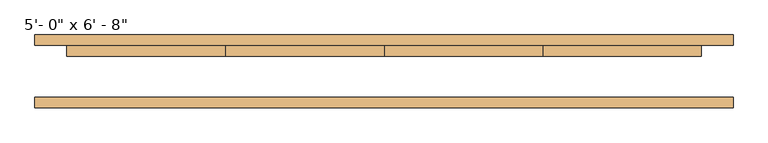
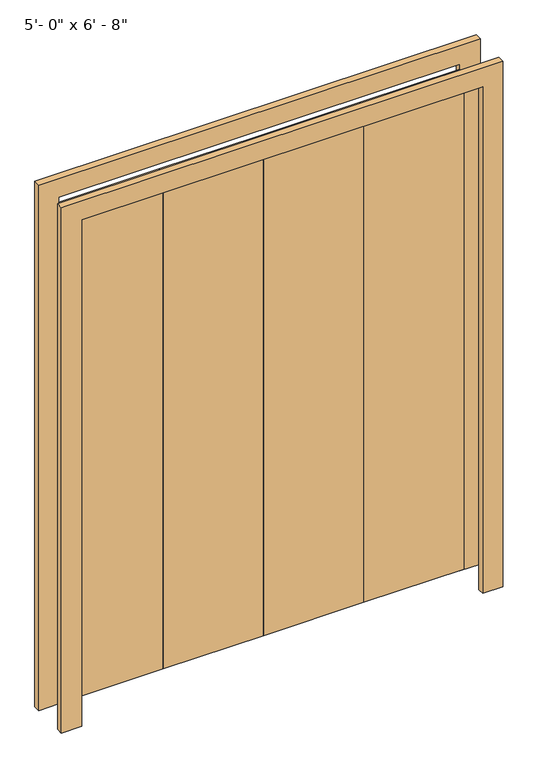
"""IFC4 building model written with IfcOpenShell, lengths in millimetres: door geometry."""

from ifc_helpers import new_model, si_unit, frame, origin, place, context, project, spatial, polyline, outline, extrude, source, transform, mapped, element, save


def door_d932cd56(model_context):
    return source(origin(), model_context, "Body", "SweptSolid", [
        extrude(outline(polyline([(2032.0, -762.0), (2032.0, 762.0), (0.0, 762.0), (0.0, 838.2), (2108.2, 838.2), (2108.2, -838.2), (0.0, -838.2), (0.0, -762.0), (2032.0, -762.0)])), frame((0.0, -103.2749703, 0.0), z_axis=(0.0, 1.0, 0.0), x_axis=(0.0, 0.0, 1.0)), (0.0, 0.0, 1.0), 25.4),
        extrude(outline(polyline([(2032.0, -762.0), (2032.0, 762.0), (0.0, 762.0), (0.0, 838.2), (2108.2, 838.2), (2108.2, -838.2), (0.0, -838.2), (0.0, -762.0), (2032.0, -762.0)])), frame((0.0, 45.9500297, 0.0), z_axis=(0.0, 1.0, 0.0), x_axis=(0.0, 0.0, 1.0)), (0.0, 0.0, 1.0), 25.4),
        extrude(outline(polyline([(-762.0, 45.9500297), (-381.0, 45.9500297), (-381.0, 20.5500297), (-762.0, 20.5500297), (-762.0, 45.9500297)])), frame((0.0, 0.0, 22.225), z_axis=(0.0, 0.0, 1.0), x_axis=(1.0, 0.0, 0.0)), (0.0, 0.0, 1.0), 1990.725),
        extrude(outline(polyline([(-381.0, 45.9500297), (0.0, 45.9500297), (0.0, 20.5500297), (-381.0, 20.5500297), (-381.0, 45.9500297)])), frame((0.0, 0.0, 22.225), z_axis=(0.0, 0.0, 1.0), x_axis=(1.0, 0.0, 0.0)), (0.0, 0.0, 1.0), 1990.725),
        extrude(outline(polyline([(0.0, 45.9500297), (381.0, 45.9500297), (381.0, 20.5500297), (0.0, 20.5500297), (0.0, 45.9500297)])), frame((0.0, 0.0, 22.225), z_axis=(0.0, 0.0, 1.0), x_axis=(1.0, 0.0, 0.0)), (0.0, 0.0, 1.0), 1990.725),
        extrude(outline(polyline([(381.0, 45.9500297), (762.0, 45.9500297), (762.0, 20.5500297), (381.0, 20.5500297), (381.0, 45.9500297)])), frame((0.0, 0.0, 22.225), z_axis=(0.0, 0.0, 1.0), x_axis=(1.0, 0.0, 0.0)), (0.0, 0.0, 1.0), 1990.725),
    ])


if __name__ == "__main__":
    model = new_model("IFC4")
    model_context = context("Model", 3, world=origin())
    ifc_project = project(units=[si_unit("LENGTHUNIT", "METRE", prefix="MILLI")], contexts=[model_context])
    site = spatial("IfcSite", under=ifc_project)
    building = spatial("IfcBuilding", under=site)
    placement = place(None, origin())
    door_shape = door_d932cd56(model_context)
    element("IfcDoor", 1, ObjectType="Door-Bifold 4-Panel Flush SlimFold_Dunbarton : 5'- 0\" x 6' - 8\"", at=placement, inside=building, context=model_context, shape_type="MappedRepresentation", body=[
        mapped(door_shape, transform((0.0, 0.0, 0.0), x_axis=(1.0, 0.0, 0.0), y_axis=(0.0, 1.0, 0.0), z_axis=(0.0, 0.0, 1.0))),
    ])
    save(model, "model.ifc")
